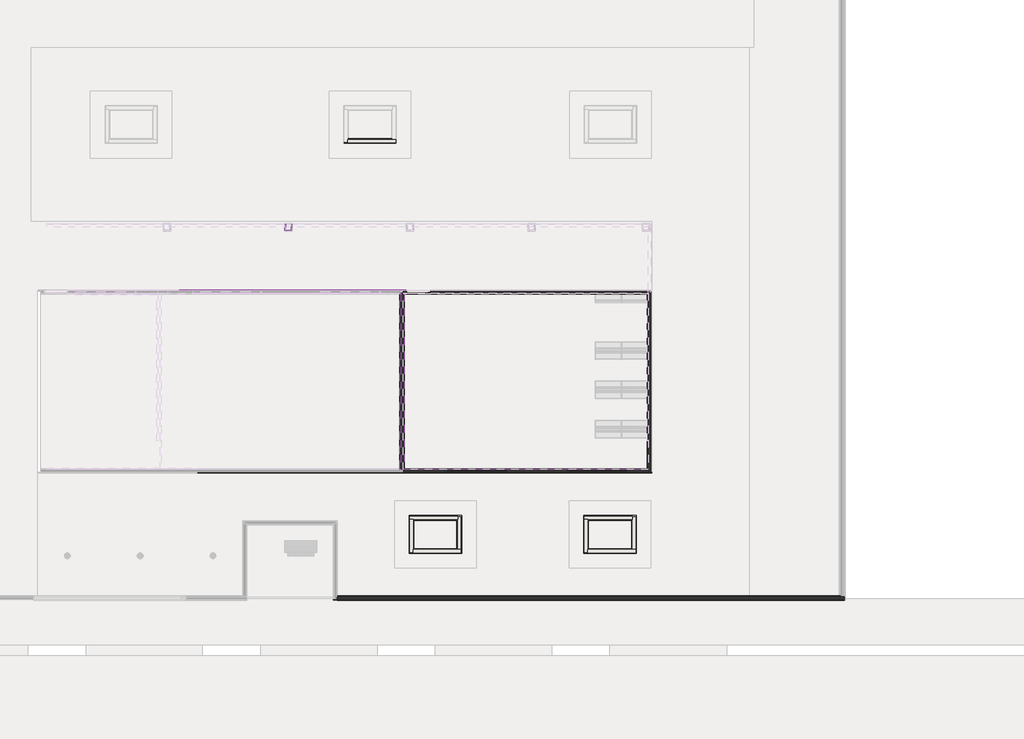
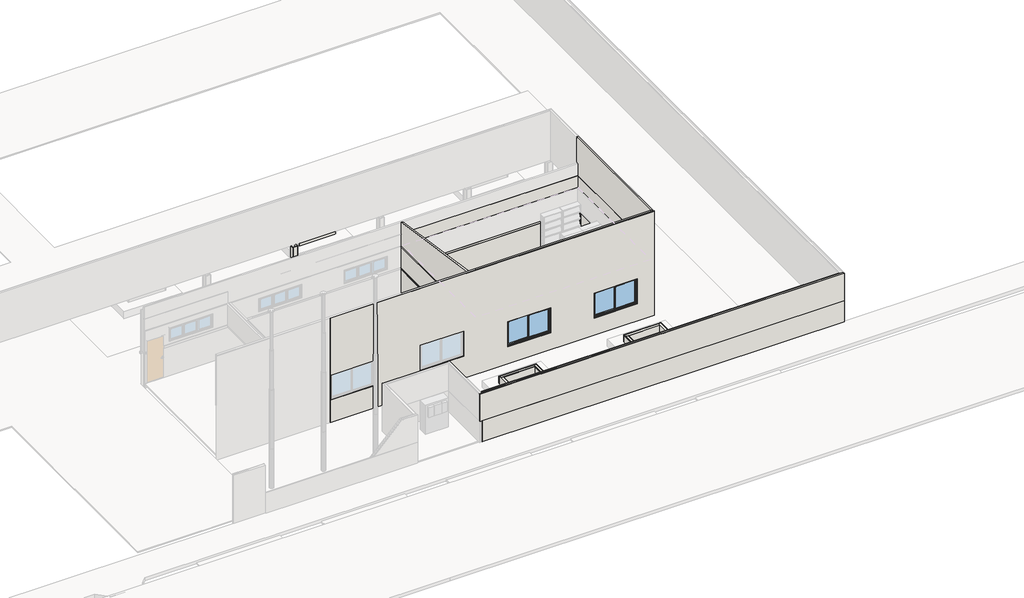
# One storey, part 13 of 28: 54 walls, 2 doors, 2 windows.
"""IFC4 building model written with IfcOpenShell, lengths in millimetres."""

from ifc_helpers import new_model, si_unit, frame, origin, origin_with_axes, place, context, project, spatial, polyline, outline, extrude, faceted_brep, transform, mapped, element, save
from components import door_29174598, pf15_l82cm_5bfc7586, window_2x1_20x1x10_9e9748dd

model = new_model("IFC4")

# Units and contexts
model_context = context("Model", 3, world=origin())
ifc_project = project(units=[si_unit("LENGTHUNIT", "METRE", prefix="MILLI")], contexts=[model_context])

# Site, building, storey
site = spatial("IfcSite", under=ifc_project)
building = spatial("IfcBuilding", under=site)
storey = spatial("IfcBuildingStorey", under=building, Name="Térreo", Elevation=0.0)

# Doors
placement = place(None, origin())
door_shape = door_29174598(model_context)
element("IfcDoor", 1, ObjectType="FDE_SO_Soleiras1 : SO14_SoleiraRampadaDesnívelAté2cm_L=14cm_Cimentado 2", at=placement, inside=storey, context=model_context, shape_type="MappedRepresentation", body=[
    mapped(door_shape, transform((-14663.0, 10630.0, 200.0), x_axis=(-1.0, 0.0, 0.0), y_axis=(0.0, -1.0, 0.0), z_axis=(0.0, 0.0, 1.0))),
])
pf15_l82cm_shape = pf15_l82cm_5bfc7586(model_context)
element("IfcDoor", 2, ObjectType="FDE_PF15_PF16_PF17_PortaemChapadeFerro : PF15_L82cm", at=placement, inside=storey, context=model_context, shape_type="MappedRepresentation", body=[
    mapped(pf15_l82cm_shape, transform((-14663.0, 10625.0, 200.0), x_axis=(-1.0, 0.0, 0.0), y_axis=(0.0, -1.0, 0.0), z_axis=(0.0, 0.0, 1.0))),
])

# Walls
element("IfcWall", 3, ObjectType="FDE_S712_AlvenariadeTijoloCerâmico/Baiano_Alvenaria_9cm - Existente", at=placement, inside=storey, context=model_context, shape_type="Brep", body=[
    faceted_brep([(-15270.0, 10580.0, 4098.5), (-15270.0, 10580.0, 0.0), (-15270.0, 4520.0, 0.0), (-15270.0, 4520.0, 5007.5), (-15180.0, 10580.0, 0.0), (-15180.0, 10580.0, 4098.5), (-15180.0, 4520.0000015, 5007.4999998), (-15180.0, 4520.000001, 3500.0), (-15180.0, 4520.0, 0.0)], [[[0, 1, 2, 3]], [[4, 5, 6, 7, 8]], [[2, 1, 4, 8]], [[3, 2, 8, 7, 6]], [[0, 5, 4, 1]], [[0, 3, 6, 5]]]),
])
element("IfcWall", 4, ObjectType="FDE_S712_AlvenariadeTijoloCerâmico/Baiano_Alvenaria_9cm - Existente", at=placement, inside=storey, context=model_context, shape_type="Brep", body=[
    faceted_brep([(-6770.0, 10655.0, 0.0), (-6770.0, 10580.0, 0.0), (-6770.0, 4520.0, 0.0), (-6770.0, 4430.0, 0.0), (-6770.0, 4430.0, 3500.0), (-6770.0, 4520.0, 3500.0), (-6770.0, 10580.0, 3500.0), (-6770.0, 10670.0, 3500.0), (-6770.0, 10670.0, 1731.0528047), (-6770.0, 10655.0, 1731.0528047), (-6680.0, 10655.0, 0.0), (-6680.0, 10655.0, 1731.0528047), (-6680.0, 10670.0, 1731.0528047), (-6680.0, 10670.0, 3500.0), (-6680.0, 4430.0, 3500.0), (-6680.0, 4430.0, 0.0)], [[[0, 1, 2, 3, 4, 5, 6, 7, 8, 9]], [[10, 11, 12, 13, 14, 15]], [[3, 2, 1, 0, 10, 15]], [[7, 6, 5, 4, 14, 13]], [[4, 3, 15, 14]], [[8, 12, 11, 9]], [[0, 9, 11, 10]], [[7, 13, 12, 8]]]),
])
element("IfcWall", 5, ObjectType="FDE_S712_AlvenariadeTijoloCerâmico/Baiano_Alvenaria_9cm - Existente", at=placement, inside=storey, context=model_context, shape_type="Brep", body=[
    faceted_brep([(-15180.0, 10580.0, 0.0), (-6770.0, 10580.0, 0.0), (-6770.0, 10580.0, 3500.0), (-15180.0, 10580.0, 3500.0), (-15080.0, 10580.0, 200.0), (-15080.0, 10580.0, 2312.0), (-14246.0, 10580.0, 2312.0), (-14246.0, 10580.0, 200.0), (-6770.0, 10670.0, 0.0), (-15180.0, 10670.0, 0.0), (-15180.0, 10670.0, 3500.0), (-6770.0, 10670.0, 3500.0), (-6770.0, 10670.0, 1731.0528047), (-15080.0, 10670.0, 2312.0), (-15080.0, 10670.0, 200.0), (-14246.0, 10670.0, 200.0), (-14246.0, 10670.0, 2312.0), (-6770.0, 10655.0, 0.0)], [[[0, 1, 2, 3], [4, 5, 6, 7]], [[8, 9, 10, 11, 12], [13, 14, 15, 16]], [[1, 0, 9, 8, 17]], [[3, 2, 11, 10]], [[4, 14, 13, 5]], [[5, 13, 16, 6]], [[6, 16, 15, 7]], [[14, 4, 7, 15]], [[9, 0, 3, 10]], [[1, 17, 8, 12, 11, 2]]]),
])
element("IfcWall", 6, ObjectType="FDE_S712_AlvenariadeTijoloCerâmico/Baiano_Alvenaria_9cm - Existente", at=placement, inside=storey, context=model_context, shape_type="SweptSolid", body=[
    extrude(outline(polyline([(0.0, -6770.0), (3500.0, -6770.0), (3500.0, -15180.0), (0.0, -15180.0), (0.0, -6770.0)]), holes=[polyline([(965.0, -7485.0), (965.0, -9555.0), (2235.0, -9555.0), (2235.0, -7485.0), (965.0, -7485.0)]), polyline([(965.0, -11645.0), (965.0, -13715.0), (2235.0, -13715.0), (2235.0, -11645.0), (965.0, -11645.0)])]), frame((0.0, 4430.0, 0.0), z_axis=(0.0, 1.0, 0.0), x_axis=(0.0, 0.0, 1.0)), (0.0, 0.0, 1.0), 90.0),
])
element("IfcWall", 7, ObjectType="FDE_S712_AlvenariadeTijoloCerâmico/Baiano_Alvenaria_9cm - Existente", at=placement, inside=storey, context=model_context, shape_type="Brep", body=[
    faceted_brep([(-30.0, 152.3387091, 0.0), (-90.0, 152.3387091, 0.0), (-180.0, 152.3387091, 0.0), (-17467.1088381, 152.3387091, 0.0), (-17467.1088381, 152.3387091, 2545.9092161), (-180.0, 152.3387091, 2545.9092161), (-90.0, 152.3387091, 2545.9092161), (-30.0, 152.3387091, 2545.9092161), (-30.0, 62.3387091, 0.0), (-30.0, 62.3387091, 2545.9092161), (-17467.1088381, 62.3387091, 2545.9092161), (-17467.1088381, 62.3387091, 0.0)], [[[0, 1, 2, 3, 4, 5, 6, 7]], [[8, 9, 10, 11]], [[3, 2, 1, 0, 8, 11]], [[7, 6, 5, 4, 10, 9]], [[0, 7, 9, 8]], [[4, 3, 11, 10]]]),
])
element("IfcWall", 8, ObjectType="FDE_S712_AlvenariadeTijoloCerâmico/Baiano_Alvenaria_9cm - Existente", at=placement, inside=storey, context=model_context, shape_type="Brep", body=[
    faceted_brep([(-6770.0, 10580.0, 4136.0), (-6770.0, 10580.0, 2900.0), (-6770.0, 10580.0, 1824.9435125), (-6770.0, 10580.0, 1731.0528047), (-6770.0, 10580.0, 0.0), (-6770.0, 10550.0, 0.0), (-6770.0, 4520.0, 0.0), (-6770.0, 4520.0, 3500.0), (-6770.0, 4520.0000015, 5400.0), (-6770.0, 10680.5, 5400.0), (-6770.0, 10680.5, 4136.0), (-6680.0, 10580.0, 0.0), (-6680.0, 10580.0, 4136.0), (-6680.0, 10680.5, 4136.0), (-6680.0, 10680.5, 5400.0), (-6680.0, 4520.0000015, 5400.0), (-6680.0, 4520.0000015, 3500.0), (-6680.0, 4520.0, 0.0)], [[[0, 1, 2, 3, 4, 5, 6, 7, 8, 9, 10]], [[11, 12, 13, 14, 15, 16, 17]], [[7, 6, 17, 16]], [[8, 7, 16, 15]], [[6, 5, 4, 11, 17]], [[9, 8, 15, 14]], [[10, 9, 14, 13]], [[10, 13, 12, 0]], [[0, 12, 11, 4, 3, 2, 1]]]),
])
element("IfcWall", 9, ObjectType="FDE_S712_AlvenariadeTijoloCerâmico/Baiano_Alvenaria_9cm - Existente", at=placement, inside=storey, context=model_context, shape_type="Brep", body=[
    faceted_brep([(-6770.0, 4520.0000015, 0.0), (-6800.0, 4520.0000015, 0.0), (-15150.0, 4520.0000015, 0.0), (-15180.0, 4520.0000015, 0.0), (-15180.0, 4520.0000015, 220.0), (-15180.0, 4520.0000015, 1731.0528047), (-15180.0, 4520.0000015, 1824.9435125), (-15180.0, 4520.0000015, 2900.0), (-15180.0, 4520.0000015, 5045.0), (-15225.0, 4520.0000015, 5045.0), (-15225.0, 4520.0000015, 5400.0), (-6770.0, 4520.0000015, 5400.0), (-6680.0, 4520.0000015, 5400.0), (-6680.0, 4520.0000015, 3500.0), (-6770.0, 4520.0000015, 3500.0), (-6770.0, 4520.0000015, 2900.0), (-15149.0, 4520.0000015, 2900.0), (-15149.0, 4520.0000015, 1824.9435125), (-13715.0, 4520.0000015, 1824.9435125), (-13715.0, 4520.0000015, 1731.0528047), (-13715.0, 4520.0000015, 965.0), (-11645.0, 4520.0000015, 965.0), (-11645.0, 4520.0000015, 1731.0528047), (-11645.0, 4520.0000015, 1824.9435125), (-9555.0, 4520.0000015, 1824.9435125), (-9555.0, 4520.0000015, 1731.0528047), (-9555.0, 4520.0000015, 965.0), (-7485.0, 4520.0000015, 965.0), (-7485.0, 4520.0000015, 1731.0528047), (-7485.0, 4520.0000015, 1824.9435125), (-6955.0, 4520.0000015, 1824.9435125), (-6770.0, 4520.0000015, 1824.9435125), (-6770.0, 4520.0000015, 1731.0528047), (-6770.0, 4520.0000015, 220.0), (-15180.0, 4430.0000015, 0.0), (-6770.0, 4430.0000015, 0.0), (-6770.0, 4430.0000015, 3500.0), (-6680.0, 4430.0000015, 3500.0), (-6680.0, 4430.0000015, 5400.0), (-15225.0, 4430.0000015, 5400.0), (-15225.0, 4430.0000015, 5045.0), (-15180.0, 4430.0000015, 5045.0), (-7485.0, 4430.0000015, 2235.0), (-7485.0, 4430.0000015, 965.0), (-9555.0, 4430.0000015, 965.0), (-9555.0, 4430.0000015, 2235.0), (-11645.0, 4430.0000015, 2235.0), (-11645.0, 4430.0000015, 965.0), (-13715.0, 4430.0000015, 965.0), (-13715.0, 4430.0000015, 2235.0), (-7485.0, 4519.0000015, 2235.0), (-7485.0, 4519.0000015, 1824.9435125), (-9555.0, 4519.0000015, 2235.0), (-9555.0, 4519.0000015, 1824.9435125), (-11645.0, 4519.0000015, 2235.0), (-11645.0, 4519.0000015, 1824.9435125), (-13715.0, 4519.0000015, 2235.0), (-13715.0, 4519.0000015, 1824.9435125), (-6770.0, 4519.0000015, 1824.9435125), (-6770.0, 4519.0000015, 2900.0), (-15149.0, 4519.0000015, 2900.0), (-15149.0, 4519.0000015, 1824.9435125)], [[[0, 1, 2, 3, 4, 5, 6, 7, 8, 9, 10, 11, 12, 13, 14, 15, 16, 17, 18, 19, 20, 21, 22, 23, 24, 25, 26, 27, 28, 29, 30, 31, 32, 33]], [[34, 35, 36, 37, 38, 39, 40, 41], [42, 43, 44, 45], [46, 47, 48, 49]], [[43, 42, 50, 51, 29, 28, 27]], [[42, 45, 52, 50]], [[45, 44, 26, 25, 24, 53, 52]], [[27, 26, 44, 43]], [[47, 46, 54, 55, 23, 22, 21]], [[46, 49, 56, 54]], [[49, 48, 20, 19, 18, 57, 56]], [[21, 20, 48, 47]], [[8, 7, 6, 5, 4, 3, 34, 41]], [[36, 35, 0, 33, 32, 31, 58, 59, 15, 14]], [[13, 12, 38, 37]], [[60, 59, 58, 51, 50, 52, 53, 55, 54, 56, 57, 61]], [[61, 57, 18, 17]], [[55, 53, 24, 23]], [[51, 58, 31, 30, 29]], [[59, 60, 16, 15]], [[60, 61, 17, 16]], [[3, 2, 1, 0, 35, 34]], [[12, 11, 10, 39, 38]], [[40, 39, 10, 9]], [[40, 9, 8, 41]], [[37, 36, 14, 13]]]),
])
element("IfcWall", 10, ObjectType="Pintura Externa - Tinta Acrílica Verbrás  Verde Água", at=placement, inside=storey, context=model_context, shape_type="Brep", body=[
    faceted_brep([(-22251.4878545, 4400.0000005, 0.0), (-6650.0, 4400.0000005, 0.0), (-6650.0, 4400.0000005, 5400.0), (-22251.4878545, 4400.0000005, 5400.0), (-7485.0, 4400.0000005, 965.0), (-9555.0, 4400.0000005, 965.0), (-9555.0, 4400.0000005, 2235.0), (-7485.0, 4400.0000005, 2235.0), (-11645.0, 4400.0000005, 965.0), (-13715.0, 4400.0000005, 965.0), (-13715.0, 4400.0000005, 2235.0), (-11645.0, 4400.0000005, 2235.0), (-15835.0, 4400.0000005, 1235.0), (-17905.0, 4400.0000005, 1235.0), (-17905.0, 4400.0000005, 2505.0), (-15835.0, 4400.0000005, 2505.0), (-20135.0, 4400.0000005, 1235.0), (-22205.0, 4400.0000005, 1235.0), (-22205.0, 4400.0000005, 2505.0), (-20135.0, 4400.0000005, 2505.0), (-22251.4878545, 4430.0000005, 0.0), (-22251.4878545, 4430.0000005, 100.0), (-22251.4878545, 4430.0000005, 5400.0), (-15225.0, 4430.0000005, 5400.0), (-6680.0, 4430.0000005, 5400.0), (-6650.0, 4430.0000005, 5400.0), (-6650.0, 4430.0000005, 0.0), (-6680.0, 4430.0000005, 0.0), (-6770.0, 4430.0000005, 0.0), (-15180.0, 4430.0000005, 0.0), (-15270.0, 4430.0000005, 0.0), (-7485.0, 4430.0000005, 965.0), (-7485.0, 4430.0000005, 2235.0), (-9555.0, 4430.0000005, 2235.0), (-9555.0, 4430.0000005, 965.0), (-11645.0, 4430.0000005, 965.0), (-11645.0, 4430.0000005, 2235.0), (-13715.0, 4430.0000005, 2235.0), (-13715.0, 4430.0000005, 965.0), (-15835.0, 4430.0000005, 1235.0), (-15835.0, 4430.0000005, 2505.0), (-17905.0, 4430.0000005, 2505.0), (-17905.0, 4430.0000005, 1235.0), (-20135.0, 4430.0000005, 1235.0), (-20135.0, 4430.0000005, 2505.0), (-22205.0, 4430.0000005, 2505.0), (-22205.0, 4430.0000005, 1235.0)], [[[0, 1, 2, 3], [4, 5, 6, 7], [8, 9, 10, 11], [12, 13, 14, 15], [16, 17, 18, 19]], [[20, 21, 22, 23, 24, 25, 26, 27, 28, 29, 30], [31, 32, 33, 34], [35, 36, 37, 38], [39, 40, 41, 42], [43, 44, 45, 46]], [[1, 0, 20, 30, 29, 28, 27, 26]], [[3, 2, 25, 24, 23, 22]], [[0, 3, 22, 21, 20]], [[32, 31, 4, 7]], [[33, 32, 7, 6]], [[34, 33, 6, 5]], [[31, 34, 5, 4]], [[36, 35, 8, 11]], [[37, 36, 11, 10]], [[38, 37, 10, 9]], [[35, 38, 9, 8]], [[2, 1, 26, 25]], [[40, 39, 12, 15]], [[41, 40, 15, 14]], [[42, 41, 14, 13]], [[39, 42, 13, 12]], [[44, 43, 16, 19]], [[45, 44, 19, 18]], [[46, 45, 18, 17]], [[43, 46, 17, 16]]]),
])
element("IfcWall", 11, ObjectType="Revestimento Cerâmico 10x10cm", at=placement, inside=storey, context=model_context, shape_type="Brep", body=[
    faceted_brep([(-15180.0, 10580.0, 220.0), (-15180.0, 4520.0, 220.0), (-15180.0, 4520.0, 1731.0528047), (-15180.0, 10580.0, 1731.0528047), (-15150.0, 10580.0, 220.0), (-15150.0, 10580.0, 1730.0), (-15150.0, 10580.0, 1731.0528047), (-15150.0, 4550.0000015, 1731.0528047), (-15150.0, 4520.0, 1731.0528047), (-15150.0, 4520.0, 220.0)], [[[0, 1, 2, 3]], [[4, 5, 6, 7, 8, 9]], [[1, 0, 4, 9]], [[3, 2, 8, 7, 6]], [[0, 3, 6, 5, 4]], [[2, 1, 9, 8]]]),
])
element("IfcWall", 12, ObjectType="Faixa - Revestimento Cerâmico Verde Folha 10x10cm", at=placement, inside=storey, context=model_context, shape_type="Brep", body=[
    faceted_brep([(-15180.0, 10580.0, 1731.0528047), (-15180.0, 4520.0, 1731.0528047), (-15180.0, 4520.0, 1824.9435125), (-15180.0, 10580.0, 1824.9435125), (-15150.0, 10580.0, 1731.0528047), (-15150.0, 10580.0, 1824.9435125), (-15150.0, 4550.0000015, 1824.9435125), (-15150.0, 4520.0, 1824.9435125), (-15150.0, 4520.0, 1731.0528047), (-15150.0, 4550.0000015, 1731.0528047)], [[[0, 1, 2, 3]], [[4, 5, 6, 7, 8, 9]], [[1, 0, 4, 9, 8]], [[3, 2, 7, 6, 5]], [[0, 3, 5, 4]], [[2, 1, 8, 7]]]),
])
element("IfcWall", 13, ObjectType="Pardes Internas_Pintura Acrílica Branco Neve 2", at=placement, inside=storey, context=model_context, shape_type="Brep", body=[
    faceted_brep([(-15149.0, 4520.0, 1824.9435125), (-15149.0, 4550.0000015, 1824.9435125), (-15149.0, 10549.0, 1824.9435125), (-15149.0, 10580.0, 1824.9435125), (-15149.0, 10580.0, 2900.0), (-15149.0, 10549.0, 2900.0), (-15149.0, 4550.0000015, 2900.0), (-15149.0, 4520.0, 2900.0), (-15180.0, 4520.0, 1824.9435125), (-15180.0, 4520.0, 2900.0), (-15180.0, 10580.0, 2900.0), (-15180.0, 10580.0, 1824.9435125)], [[[0, 1, 2, 3, 4, 5, 6, 7]], [[8, 9, 10, 11]], [[3, 2, 1, 0, 8, 11]], [[7, 6, 5, 4, 10, 9]], [[4, 3, 11, 10]], [[0, 7, 9, 8]]]),
])
element("IfcWall", 14, ObjectType="Revestimento Cerâmico 10x10cm", at=placement, inside=storey, context=model_context, shape_type="Brep", body=[
    faceted_brep([(-15150.0, 10550.0, 0.0), (-6770.0, 10550.0, 0.0), (-6770.0, 10550.0, 220.0), (-6770.0, 10550.0, 1731.0528047), (-6800.0, 10550.0, 1731.0528047), (-14246.0, 10550.0, 1731.0528047), (-14246.0, 10550.0, 220.0), (-14246.0, 10550.0, 200.0), (-14246.0, 10550.0, 180.0), (-15086.0, 10550.0, 180.0), (-15086.0, 10550.0, 1730.0), (-15150.0, 10550.0, 1730.0), (-6770.0, 10580.0, 0.0), (-15150.0, 10580.0, 0.0), (-15150.0, 10580.0, 220.0), (-15150.0, 10580.0, 1730.0), (-15086.0, 10580.0, 1730.0), (-15086.0, 10580.0, 180.0), (-14246.0, 10580.0, 180.0), (-14246.0, 10580.0, 200.0), (-14246.0, 10580.0, 220.0), (-14246.0, 10580.0, 1731.0528047), (-6770.0, 10580.0, 1731.0528047)], [[[0, 1, 2, 3, 4, 5, 6, 7, 8, 9, 10, 11]], [[12, 13, 14, 15, 16, 17, 18, 19, 20, 21, 22]], [[3, 2, 1, 12, 22]], [[0, 11, 15, 14, 13]], [[1, 0, 13, 12]], [[5, 4, 3, 22, 21]], [[6, 5, 21, 20]], [[6, 20, 19, 18, 8, 7]], [[9, 8, 18, 17]], [[10, 9, 17, 16]], [[11, 10, 16, 15]]]),
])
element("IfcWall", 15, ObjectType="Faixa - Revestimento Cerâmico Verde Folha 10x10cm", at=placement, inside=storey, context=model_context, shape_type="SweptSolid", body=[
    extrude(outline(polyline([(-6770.0, 10580.0), (-6770.0, 10550.0), (-14246.0, 10550.0), (-14246.0, 10580.0), (-6770.0, 10580.0)])), frame((0.0, 0.0, 1731.0528047), z_axis=(0.0, 0.0, 1.0), x_axis=(1.0, 0.0, 0.0)), (0.0, 0.0, 1.0), 93.8907079),
    extrude(outline(polyline([(-15180.0, 10550.0), (-15180.0, 10580.0), (-15080.0, 10580.0), (-15080.0, 10550.0), (-15180.0, 10550.0)])), frame((0.0, 0.0, 1731.0528047), z_axis=(0.0, 0.0, 1.0), x_axis=(1.0, 0.0, 0.0)), (0.0, 0.0, 1.0), 93.8907079),
])
element("IfcWall", 16, ObjectType="Revestimento Cerâmico 10x10cm", at=placement, inside=storey, context=model_context, shape_type="Brep", body=[
    faceted_brep([(-6800.0, 10550.0, 220.0), (-6800.0, 4520.0, 220.0), (-6800.0, 4520.0, 1731.0528047), (-6800.0, 4550.0000015, 1731.0528047), (-6800.0, 10550.0, 1731.0528047), (-6770.0, 10550.0, 220.0), (-6770.0, 10550.0, 1731.0528047), (-6770.0, 4520.0, 1731.0528047), (-6770.0, 4520.0, 220.0)], [[[0, 1, 2, 3, 4]], [[5, 6, 7, 8]], [[1, 0, 5, 8]], [[4, 3, 2, 7, 6]], [[2, 1, 8, 7]], [[0, 4, 6, 5]]]),
])
element("IfcWall", 17, ObjectType="Revestimento Cerâmico 10x10cm", at=placement, inside=storey, context=model_context, shape_type="Brep", body=[
    faceted_brep([(-6800.0, 4550.0000015, 0.0), (-15150.0, 4550.0000015, 0.0), (-15150.0, 4550.0000015, 1731.0528047), (-13715.0, 4550.0000015, 1731.0528047), (-13715.0, 4550.0000015, 965.0), (-11645.0, 4550.0000015, 965.0), (-11645.0, 4550.0000015, 1731.0528047), (-9555.0, 4550.0000015, 1731.0528047), (-9555.0, 4550.0000015, 965.0), (-7485.0, 4550.0000015, 965.0), (-7485.0, 4550.0000015, 1731.0528047), (-6800.0, 4550.0000015, 1731.0528047), (-15150.0, 4520.0000015, 0.0), (-6800.0, 4520.0000015, 0.0), (-6800.0, 4520.0000015, 220.0), (-6800.0, 4520.0000015, 1731.0528047), (-7485.0, 4520.0000015, 1731.0528047), (-7485.0, 4520.0000015, 965.0), (-9555.0, 4520.0000015, 965.0), (-9555.0, 4520.0000015, 1731.0528047), (-11645.0, 4520.0000015, 1731.0528047), (-11645.0, 4520.0000015, 965.0), (-13715.0, 4520.0000015, 965.0), (-13715.0, 4520.0000015, 1731.0528047), (-15150.0, 4520.0000015, 1731.0528047), (-15150.0, 4520.0000015, 220.0)], [[[0, 1, 2, 3, 4, 5, 6, 7, 8, 9, 10, 11]], [[12, 13, 14, 15, 16, 17, 18, 19, 20, 21, 22, 23, 24, 25]], [[1, 0, 13, 12]], [[2, 24, 23, 3]], [[11, 10, 16, 15]], [[19, 7, 6, 20]], [[10, 9, 17, 16]], [[8, 7, 19, 18]], [[5, 21, 20, 6]], [[22, 4, 3, 23]], [[1, 12, 25, 24, 2]], [[17, 9, 8, 18]], [[21, 5, 4, 22]], [[0, 11, 15, 14, 13]]]),
])
element("IfcWall", 18, ObjectType="Faixa - Revestimento Cerâmico Verde Folha 10x10cm", at=placement, inside=storey, context=model_context, shape_type="Brep", body=[
    faceted_brep([(-6955.0, 4550.0000015, 1824.9435125), (-6955.0, 4550.0000015, 1731.0528047), (-7485.0, 4550.0000015, 1731.0528047), (-7485.0, 4550.0000015, 1824.9435125), (-6955.0, 4520.0000015, 1731.0528047), (-6955.0, 4520.0000015, 1824.9435125), (-7485.0, 4520.0000015, 1824.9435125), (-7485.0, 4520.0000015, 1731.0528047)], [[[0, 1, 2, 3]], [[4, 5, 6, 7]], [[1, 4, 7, 2]], [[5, 0, 3, 6]], [[1, 0, 5, 4]], [[3, 2, 7, 6]]]),
    faceted_brep([(-15150.0, 4550.0000015, 1731.0528047), (-15150.0, 4550.0000015, 1824.9435125), (-13715.0, 4550.0000015, 1824.9435125), (-13715.0, 4550.0000015, 1731.0528047), (-15150.0, 4520.0000015, 1824.9435125), (-15150.0, 4520.0000015, 1731.0528047), (-13715.0, 4520.0000015, 1731.0528047), (-13715.0, 4520.0000015, 1824.9435125), (-15149.0, 4520.0000015, 1824.9435125)], [[[0, 1, 2, 3]], [[4, 5, 6, 7, 8]], [[5, 0, 3, 6]], [[1, 4, 8, 7, 2]], [[1, 0, 5, 4]], [[3, 2, 7, 6]]]),
    faceted_brep([(-11645.0, 4550.0000015, 1731.0528047), (-11645.0, 4550.0000015, 1824.9435125), (-9555.0, 4550.0000015, 1824.9435125), (-9555.0, 4550.0000015, 1731.0528047), (-11645.0, 4520.0000015, 1824.9435125), (-11645.0, 4520.0000015, 1731.0528047), (-9555.0, 4520.0000015, 1731.0528047), (-9555.0, 4520.0000015, 1824.9435125)], [[[0, 1, 2, 3]], [[4, 5, 6, 7]], [[5, 0, 3, 6]], [[1, 4, 7, 2]], [[1, 0, 5, 4]], [[3, 2, 7, 6]]]),
])
element("IfcWall", 19, ObjectType="Pardes Internas_Pintura Acrílica Branco Neve 2", at=placement, inside=storey, context=model_context, shape_type="Brep", body=[
    faceted_brep([(-6770.0, 4519.0000015, 2900.0), (-15149.0, 4519.0000015, 2900.0), (-15149.0, 4519.0000015, 1824.9435125), (-13715.0, 4519.0000015, 1824.9435125), (-13715.0, 4519.0000015, 2235.0), (-11645.0, 4519.0000015, 2235.0), (-11645.0, 4519.0000015, 1824.9435125), (-9555.0, 4519.0000015, 1824.9435125), (-9555.0, 4519.0000015, 2235.0), (-7485.0, 4519.0000015, 2235.0), (-7485.0, 4519.0000015, 1824.9435125), (-6770.0, 4519.0000015, 1824.9435125), (-15149.0, 4550.0000015, 2900.0), (-6770.0, 4550.0000015, 2900.0), (-6770.0, 4550.0000015, 1824.9435125), (-7485.0, 4550.0000015, 1824.9435125), (-7485.0, 4550.0000015, 2235.0), (-9555.0, 4550.0000015, 2235.0), (-9555.0, 4550.0000015, 1824.9435125), (-11645.0, 4550.0000015, 1824.9435125), (-11645.0, 4550.0000015, 2235.0), (-13715.0, 4550.0000015, 2235.0), (-13715.0, 4550.0000015, 1824.9435125), (-15149.0, 4550.0000015, 1824.9435125), (-7485.0, 4520.0000015, 1824.9435125), (-6770.0, 4520.0000015, 1824.9435125), (-9555.0, 4520.0000015, 1824.9435125), (-11645.0, 4520.0000015, 1824.9435125), (-15149.0, 4520.0, 1824.9435125), (-13715.0, 4520.0000015, 1824.9435125), (-6770.0, 4520.0000015, 2900.0), (-15149.0, 4520.0, 2900.0)], [[[0, 1, 2, 3, 4, 5, 6, 7, 8, 9, 10, 11]], [[12, 13, 14, 15, 16, 17, 18, 19, 20, 21, 22, 23]], [[11, 10, 24, 15, 14, 25]], [[18, 26, 7, 6, 27, 19]], [[2, 28, 23, 22, 29, 3]], [[1, 0, 30, 13, 12, 31]], [[9, 16, 15, 24, 10]], [[16, 9, 8, 17]], [[17, 8, 7, 26, 18]], [[5, 20, 19, 27, 6]], [[20, 5, 4, 21]], [[21, 4, 3, 29, 22]], [[23, 28, 2, 1, 31, 12]], [[0, 11, 25, 14, 13, 30]]]),
])
element("IfcWall", 20, ObjectType="Faixa - Revestimento Cerâmico Verde Folha 10x10cm", at=placement, inside=storey, context=model_context, shape_type="Brep", body=[
    faceted_brep([(-6665.0, 10715.0, 1824.9435125), (-6665.0, 10715.0, 1731.0528047), (-14246.0, 10715.0, 1731.0528047), (-14246.0, 10715.0, 1824.9435125), (-6665.0, 10685.0, 1731.0528047), (-6665.0, 10685.0, 1824.9435125), (-14246.0, 10685.0, 1824.9435125), (-14246.0, 10685.0, 1731.0528047), (-14246.0, 10691.0, 1824.9435125)], [[[0, 1, 2, 3]], [[4, 5, 6, 7]], [[1, 4, 7, 2]], [[5, 0, 3, 8, 6]], [[1, 0, 5, 4]], [[3, 2, 7, 6, 8]]]),
    faceted_brep([(-22865.0, 10715.0, 1731.0528047), (-22865.0, 10715.0, 1824.9435125), (-15080.0, 10715.0, 1824.9435125), (-15080.0, 10715.0, 1731.0528047), (-22865.0, 10685.0, 1824.9435125), (-22865.0, 10685.0, 1731.0528047), (-15080.0, 10685.0, 1731.0528047), (-15080.0, 10685.0, 1824.9435125), (-15080.0, 10691.0, 1824.9435125)], [[[0, 1, 2, 3]], [[4, 5, 6, 7]], [[5, 0, 3, 6]], [[1, 0, 5, 4]], [[1, 4, 7, 8, 2]], [[3, 2, 8, 7, 6]]]),
])
element("IfcWall", 21, ObjectType="Revestimento Cerâmico 10x10cm", at=placement, inside=storey, context=model_context, shape_type="Brep", body=[
    faceted_brep([(-15300.0, 10580.0, 220.0), (-15300.0, 4520.0, 220.0), (-15300.0, 4520.0, 1731.0528047), (-15300.0, 4550.0000005, 1731.0528047), (-15300.0, 10550.0, 1731.0528047), (-15300.0, 10580.0, 1731.0528047), (-15270.0, 10580.0, 220.0), (-15270.0, 10580.0, 1731.0528047), (-15270.0, 10550.0, 1731.0528047), (-15270.0, 4520.0, 1731.0528047), (-15270.0, 4520.0, 220.0)], [[[0, 1, 2, 3, 4, 5]], [[6, 7, 8, 9, 10]], [[1, 0, 6, 10]], [[5, 4, 3, 2, 9, 8, 7]], [[0, 5, 7, 6]], [[2, 1, 10, 9]]]),
])
element("IfcWall", 22, ObjectType="Faixa - Revestimento Cerâmico Verde Folha 10x10cm", at=placement, inside=storey, context=model_context, shape_type="Brep", body=[
    faceted_brep([(-15300.0, 10580.0, 1731.0528047), (-15300.0, 4580.0000005, 1731.0528047), (-15300.0, 4550.0000005, 1731.0528047), (-15300.0, 4520.0, 1731.0528047), (-15300.0, 4520.0, 1824.9435125), (-15300.0, 4550.0000005, 1824.9435125), (-15300.0, 4580.0000005, 1824.9435125), (-15300.0, 10580.0, 1824.9435125), (-15270.0, 10580.0, 1731.0528047), (-15270.0, 10580.0, 1824.9435125), (-15270.0, 10549.0, 1824.9435125), (-15270.0, 4520.0, 1824.9435125), (-15270.0, 4520.0, 1731.0528047)], [[[0, 1, 2, 3, 4, 5, 6, 7]], [[8, 9, 10, 11, 12]], [[3, 2, 1, 0, 8, 12]], [[7, 6, 5, 4, 11, 10, 9]], [[0, 7, 9, 8]], [[4, 3, 12, 11]]]),
])
element("IfcWall", 23, ObjectType="Pardes Internas_Pintura Acrílica Branco Neve 2", at=placement, inside=storey, context=model_context, shape_type="Brep", body=[
    faceted_brep([(-15270.0, 4520.0, 1824.9435125), (-15270.0, 10550.0, 1824.9435125), (-15270.0, 10580.0, 1824.9435125), (-15270.0, 10580.0, 2900.0), (-15270.0, 4520.0, 2900.0), (-15301.0, 4520.0, 1824.9435125), (-15301.0, 4520.0, 2900.0), (-15301.0, 4550.0000005, 2900.0), (-15301.0, 10580.0, 2900.0), (-15301.0, 10580.0, 1824.9435125), (-15301.0, 4550.0000005, 1824.9435125), (-15300.0, 10580.0, 1824.9435125)], [[[0, 1, 2, 3, 4]], [[5, 6, 7, 8, 9, 10]], [[2, 1, 0, 5, 10, 9, 11]], [[4, 3, 8, 7, 6]], [[3, 2, 11, 9, 8]], [[0, 4, 6, 5]]]),
])
element("IfcWall", 24, ObjectType="Pardes Externas_Pintura Acrílica Branco Neve", at=placement, inside=storey, context=model_context, shape_type="Brep", body=[
    faceted_brep([(-30.0, 62.3387091, 1156.7860555), (-16096.3660591, 62.3387091, 1156.7860555), (-17467.1088381, 62.3387091, 1156.7860555), (-17557.1088381, 62.3387091, 1156.7860555), (-17578.1088381, 62.3387091, 1156.7860555), (-17578.1088381, 62.3387091, 2545.9092161), (-17578.1088381, 62.3387091, 2551.1739106), (-30.0, 62.3387091, 2551.1739106), (-30.0, 41.3387091, 1156.7860555), (-30.0, 41.3387091, 2551.1739106), (-17578.1088381, 41.3387091, 2551.1739106), (-17578.1088381, 41.3387091, 1156.7860555), (-16096.3660591, 41.3387091, 1156.7860555)], [[[0, 1, 2, 3, 4, 5, 6, 7]], [[8, 9, 10, 11, 12]], [[1, 0, 8, 12]], [[4, 3, 2, 1, 12, 11]], [[7, 6, 10, 9]], [[0, 7, 9, 8]], [[6, 5, 4, 11, 10]]]),
])
element("IfcWall", 25, ObjectType="Pardes Externas_Pintura Acrílica Branco Neve", at=placement, inside=storey, context=model_context, shape_type="SweptSolid", body=[
    extrude(outline(polyline([(-19025.0, 12729.0), (-19225.0, 12729.0), (-19225.0, 12750.0), (-19025.0, 12750.0), (-19025.0, 12729.0)])), frame((0.0, 0.0, 1794.0), z_axis=(0.0, 0.0, 1.0), x_axis=(1.0, 0.0, 0.0)), (0.0, 0.0, 1.0), 1106.0),
])
element("IfcWall", 26, ObjectType="Pardes Externas_Pintura Acrílica Branco Neve", at=placement, inside=storey, context=model_context, shape_type="Brep", body=[
    faceted_brep([(-19025.0, 12950.0, 1794.0), (-19025.0, 12750.0, 1794.0), (-19025.0, 12729.0, 1794.0), (-19025.0, 12729.0, 2900.0), (-19025.0, 12750.0, 2900.0), (-19025.0, 12950.0, 2900.0), (-19004.0, 12950.0, 1794.0), (-19004.0, 12950.0, 2900.0), (-19004.0, 12729.0, 2900.0), (-19004.0, 12729.0, 1794.0)], [[[0, 1, 2, 3, 4, 5]], [[6, 7, 8, 9]], [[2, 1, 0, 6, 9]], [[5, 4, 3, 8, 7]], [[3, 2, 9, 8]], [[0, 5, 7, 6]]]),
])
element("IfcWall", 27, ObjectType="Pardes Externas_Pintura Acrílica Branco Neve", at=placement, inside=storey, context=model_context, shape_type="Brep", body=[
    faceted_brep([(-19246.0, 12950.0, 1794.0), (-19246.0, 12729.0, 1794.0), (-19246.0, 12729.0, 2900.0), (-19246.0, 12950.0, 2900.0), (-19225.0, 12950.0, 1794.0), (-19225.0, 12950.0, 2900.0), (-19225.0, 12750.0, 2900.0), (-19225.0, 12729.0, 2900.0), (-19225.0, 12729.0, 1794.0), (-19225.0, 12750.0, 1794.0)], [[[0, 1, 2, 3]], [[4, 5, 6, 7, 8, 9]], [[1, 0, 4, 9, 8]], [[3, 2, 7, 6, 5]], [[2, 1, 8, 7]], [[0, 3, 5, 4]]]),
])
element("IfcWall", 28, ObjectType="FDE_S713_AlvenariadeTijoloLaminadoaVista_Alvenaria_1/2TijoloAlternado_11,5cm", at=placement, inside=storey, context=model_context, shape_type="Brep", body=[
    faceted_brep([(-17085.3203436, 15752.1451949, 0.0), (-15442.3203436, 15752.1451949, 0.0), (-15442.3203436, 15752.1451949, 800.0), (-17085.3203436, 15752.1451949, 800.0), (-17085.3203436, 15752.1451949, 100.0), (-17085.3203436, 15867.1451949, 0.0), (-17085.3203436, 15867.1451949, 800.0), (-15557.3203436, 15867.1451949, 800.0), (-15442.3203436, 15867.1451949, 800.0), (-15442.3203436, 15867.1451949, 100.0), (-15442.3203436, 15867.1451949, 0.0)], [[[0, 1, 2, 3, 4]], [[5, 6, 7, 8, 9, 10]], [[1, 0, 5, 10]], [[3, 2, 8, 7, 6]], [[2, 1, 10, 9, 8]], [[0, 4, 3, 6, 5]]]),
])
element("IfcWall", 29, ObjectType="Pardes Externas_Pintura Acrílica Branco Neve", at=placement, inside=storey, context=model_context, shape_type="SweptSolid", body=[
    extrude(outline(polyline([(-17200.3203436, 15752.1451949), (-15442.3203436, 15752.1451949), (-15442.3203436, 15731.1451949), (-17200.3203436, 15731.1451949), (-17200.3203436, 15752.1451949)])), frame((0.0, 0.0, 100.0), z_axis=(0.0, 0.0, 1.0), x_axis=(1.0, 0.0, 0.0)), (0.0, 0.0, 1.0), 700.0),
])
element("IfcWall", 30, ObjectType="Pardes Externas_Pintura Acrílica Branco Neve", at=placement, inside=storey, context=model_context, shape_type="SweptSolid", body=[
    extrude(outline(polyline([(-15578.3203436, 15867.1451949), (-17064.3203436, 15867.1451949), (-17064.3203436, 15888.1451949), (-15578.3203436, 15888.1451949), (-15578.3203436, 15867.1451949)])), origin_with_axes(), (0.0, 0.0, 1.0), 800.0),
])
element("IfcWall", 31, ObjectType="FDE_S713_AlvenariadeTijoloLaminadoaVista_Alvenaria_1/2TijoloAlternado_11,5cm", at=placement, inside=storey, context=model_context, shape_type="Brep", body=[
    faceted_brep([(-8959.0, 2801.7308554, 100.0), (-8959.0, 1658.7308554, 100.0), (-8959.0, 1658.7308554, 800.0), (-8959.0, 2801.7308554, 800.0), (-8959.0, 2801.7308554, 179.0468845), (-8844.0, 2801.7308554, 100.0), (-8844.0, 2801.7308554, 800.0), (-8844.0, 1773.7308554, 800.0), (-8844.0, 1658.7308554, 800.0), (-8844.0, 1658.7308554, 100.0)], [[[0, 1, 2, 3, 4]], [[5, 6, 7, 8, 9]], [[1, 0, 5, 9]], [[3, 2, 8, 7, 6]], [[2, 1, 9, 8]], [[0, 4, 3, 6, 5]]]),
])
element("IfcWall", 32, ObjectType="FDE_S713_AlvenariadeTijoloLaminadoaVista_Alvenaria_1/2TijoloAlternado_11,5cm", at=placement, inside=storey, context=model_context, shape_type="Brep", body=[
    faceted_brep([(-8844.0, 1658.7308554, 0.0), (-7201.0, 1658.7308554, 0.0), (-7201.0, 1658.7308554, 800.0), (-8844.0, 1658.7308554, 800.0), (-8844.0, 1658.7308554, 100.0), (-8844.0, 1773.7308554, 0.0), (-8844.0, 1773.7308554, 800.0), (-7316.0, 1773.7308554, 800.0), (-7201.0, 1773.7308554, 800.0), (-7201.0, 1773.7308554, 100.0), (-7201.0, 1773.7308554, 0.0)], [[[0, 1, 2, 3, 4]], [[5, 6, 7, 8, 9, 10]], [[1, 0, 5, 10]], [[3, 2, 8, 7, 6]], [[2, 1, 10, 9, 8]], [[0, 4, 3, 6, 5]]]),
])
element("IfcWall", 33, ObjectType="FDE_S713_AlvenariadeTijoloLaminadoaVista_Alvenaria_1/2TijoloAlternado_11,5cm", at=placement, inside=storey, context=model_context, shape_type="Brep", body=[
    faceted_brep([(-7201.0, 1773.7308554, 100.0), (-7201.0, 2916.7308554, 100.0), (-7201.0, 2916.7308554, 800.0), (-7201.0, 1773.7308554, 800.0), (-7316.0, 1773.7308554, 100.0), (-7316.0, 1773.7308554, 800.0), (-7316.0, 2801.7308554, 800.0), (-7316.0, 2916.7308554, 800.0), (-7316.0, 2916.7308554, 179.0468845), (-7316.0, 2916.7308554, 100.0)], [[[0, 1, 2, 3]], [[4, 5, 6, 7, 8, 9]], [[1, 0, 4, 9]], [[3, 2, 7, 6, 5]], [[2, 1, 9, 8, 7]], [[0, 3, 5, 4]]]),
])
element("IfcWall", 34, ObjectType="FDE_S713_AlvenariadeTijoloLaminadoaVista_Alvenaria_1/2TijoloAlternado_11,5cm", at=placement, inside=storey, context=model_context, shape_type="Brep", body=[
    faceted_brep([(-7316.0, 2916.7308554, 179.0468845), (-8959.0, 2916.7308554, 179.0468845), (-8959.0, 2916.7308554, 800.0), (-7316.0, 2916.7308554, 800.0), (-7316.0, 2801.7308554, 179.0468845), (-7316.0, 2801.7308554, 800.0), (-8844.0, 2801.7308554, 800.0), (-8959.0, 2801.7308554, 800.0), (-8959.0, 2801.7308554, 179.0468845)], [[[0, 1, 2, 3]], [[4, 5, 6, 7, 8]], [[1, 0, 4, 8]], [[3, 2, 7, 6, 5]], [[2, 1, 8, 7]], [[0, 3, 5, 4]]]),
])
element("IfcWall", 35, ObjectType="Pardes Externas_Pintura Acrílica Branco Neve", at=placement, inside=storey, context=model_context, shape_type="Brep", body=[
    faceted_brep([(-8980.0, 2916.7308554, 100.0), (-8959.0, 2916.7308554, 100.0), (-7201.0, 2916.7308554, 100.0), (-7180.0, 2916.7308554, 100.0), (-7180.0, 2916.7308554, 800.0), (-7201.0, 2916.7308554, 800.0), (-8959.0, 2916.7308554, 800.0), (-8980.0, 2916.7308554, 800.0), (-8980.0, 2937.7308554, 100.0), (-8980.0, 2937.7308554, 800.0), (-7180.0, 2937.7308554, 800.0), (-7180.0, 2937.7308554, 100.0)], [[[0, 1, 2, 3, 4, 5, 6, 7]], [[8, 9, 10, 11]], [[3, 2, 1, 0, 8, 11]], [[7, 6, 5, 4, 10, 9]], [[0, 7, 9, 8]], [[4, 3, 11, 10]]]),
])
element("IfcWall", 36, ObjectType="Pardes Externas_Pintura Acrílica Branco Neve", at=placement, inside=storey, context=model_context, shape_type="Brep", body=[
    faceted_brep([(-8959.0, 1637.7308554, 100.0), (-8959.0, 1658.7308554, 100.0), (-8959.0, 2916.7308554, 100.0), (-8959.0, 2916.7308554, 800.0), (-8959.0, 1658.7308554, 800.0), (-8959.0, 1637.7308554, 800.0), (-8980.0, 1637.7308554, 100.0), (-8980.0, 1637.7308554, 800.0), (-8980.0, 2916.7308554, 800.0), (-8980.0, 2916.7308554, 100.0)], [[[0, 1, 2, 3, 4, 5]], [[6, 7, 8, 9]], [[2, 1, 0, 6, 9]], [[5, 4, 3, 8, 7]], [[3, 2, 9, 8]], [[0, 5, 7, 6]]]),
])
element("IfcWall", 37, ObjectType="Pardes Externas_Pintura Acrílica Branco Neve", at=placement, inside=storey, context=model_context, shape_type="Brep", body=[
    faceted_brep([(-7201.0, 2916.7308554, 100.0), (-7201.0, 1658.7308554, 100.0), (-7201.0, 1637.7308554, 100.0), (-7201.0, 1637.7308554, 800.0), (-7201.0, 1658.7308554, 800.0), (-7201.0, 2916.7308554, 800.0), (-7180.0, 2916.7308554, 100.0), (-7180.0, 2916.7308554, 800.0), (-7180.0, 1637.7308554, 800.0), (-7180.0, 1637.7308554, 100.0)], [[[0, 1, 2, 3, 4, 5]], [[6, 7, 8, 9]], [[2, 1, 0, 6, 9]], [[5, 4, 3, 8, 7]], [[0, 5, 7, 6]], [[3, 2, 9, 8]]]),
])
element("IfcWall", 38, ObjectType="Pardes Externas_Pintura Acrílica Branco Neve", at=placement, inside=storey, context=model_context, shape_type="SweptSolid", body=[
    extrude(outline(polyline([(-8959.0, 1658.7308554), (-7201.0, 1658.7308554), (-7201.0, 1637.7308554), (-8959.0, 1637.7308554), (-8959.0, 1658.7308554)])), frame((0.0, 0.0, 100.0), z_axis=(0.0, 0.0, 1.0), x_axis=(1.0, 0.0, 0.0)), (0.0, 0.0, 1.0), 700.0),
])
element("IfcWall", 39, ObjectType="Pardes Externas_Pintura Acrílica Branco Neve", at=placement, inside=storey, context=model_context, shape_type="Brep", body=[
    faceted_brep([(-7316.0, 1773.7308554, 0.0), (-7316.0, 2801.7308554, 0.0), (-7316.0, 2801.7308554, 800.0), (-7316.0, 1773.7308554, 800.0), (-7337.0, 1773.7308554, 0.0), (-7337.0, 1773.7308554, 800.0), (-7337.0, 1794.7308554, 800.0), (-7337.0, 2780.7308554, 800.0), (-7337.0, 2801.7308554, 800.0), (-7337.0, 2801.7308554, 0.0), (-7337.0, 2780.7308554, 0.0), (-7337.0, 1794.7308554, 0.0)], [[[0, 1, 2, 3]], [[4, 5, 6, 7, 8, 9, 10, 11]], [[1, 0, 4, 11, 10, 9]], [[3, 2, 8, 7, 6, 5]], [[2, 1, 9, 8]], [[0, 3, 5, 4]]]),
])
element("IfcWall", 40, ObjectType="Pardes Externas_Pintura Acrílica Branco Neve", at=placement, inside=storey, context=model_context, shape_type="Brep", body=[
    faceted_brep([(-7337.0, 2801.7308554, 0.0), (-8844.0, 2801.7308554, 0.0), (-8844.0, 2801.7308554, 800.0), (-7337.0, 2801.7308554, 800.0), (-7337.0, 2780.7308554, 0.0), (-7337.0, 2780.7308554, 800.0), (-8823.0, 2780.7308554, 800.0), (-8844.0, 2780.7308554, 800.0), (-8844.0, 2780.7308554, 0.0), (-8823.0, 2780.7308554, 0.0)], [[[0, 1, 2, 3]], [[4, 5, 6, 7, 8, 9]], [[1, 0, 4, 9, 8]], [[3, 2, 7, 6, 5]], [[0, 3, 5, 4]], [[2, 1, 8, 7]]]),
])
element("IfcWall", 41, ObjectType="Pardes Externas_Pintura Acrílica Branco Neve", at=placement, inside=storey, context=model_context, shape_type="Brep", body=[
    faceted_brep([(-8844.0, 2780.7308554, 0.0), (-8844.0, 1773.7308554, 0.0), (-8844.0, 1773.7308554, 800.0), (-8844.0, 2780.7308554, 800.0), (-8823.0, 2780.7308554, 0.0), (-8823.0, 2780.7308554, 800.0), (-8823.0, 1794.7308554, 800.0), (-8823.0, 1773.7308554, 800.0), (-8823.0, 1773.7308554, 0.0), (-8823.0, 1794.7308554, 0.0)], [[[0, 1, 2, 3]], [[4, 5, 6, 7, 8, 9]], [[1, 0, 4, 9, 8]], [[3, 2, 7, 6, 5]], [[0, 3, 5, 4]], [[2, 1, 8, 7]]]),
])
element("IfcWall", 42, ObjectType="Pardes Externas_Pintura Acrílica Branco Neve", at=placement, inside=storey, context=model_context, shape_type="SweptSolid", body=[
    extrude(outline(polyline([(-7337.0, 1773.7308554), (-8823.0, 1773.7308554), (-8823.0, 1794.7308554), (-7337.0, 1794.7308554), (-7337.0, 1773.7308554)])), origin_with_axes(), (0.0, 0.0, 1.0), 800.0),
])
element("IfcWall", 43, ObjectType="Pardes Externas_Pintura Acrílica Branco Neve", at=placement, inside=storey, context=model_context, shape_type="SweptSolid", body=[
    extrude(outline(polyline([(-17467.1088381, 173.3387091), (-180.0, 173.3387091), (-180.0, 152.3387091), (-17467.1088381, 152.3387091), (-17467.1088381, 173.3387091)])), origin_with_axes(), (0.0, 0.0, 1.0), 2545.9092161),
])
element("IfcWall", 44, ObjectType="Faixa - Revestimento Cerâmico Verde Folha 10x10cm", at=placement, inside=storey, context=model_context, shape_type="Brep", body=[
    faceted_brep([(-17467.1088381, 32.3387091, 1156.7860555), (-17467.1088381, 32.3387091, 0.0), (-30.0, 32.3387091, 0.0), (-30.0, 32.3387091, 1156.7860555), (-17467.1088381, 62.3387091, 0.0), (-17467.1088381, 62.3387091, 1156.7860555), (-30.0, 62.3387091, 1156.7860555), (-30.0, 62.3387091, 0.0), (-30.0, 41.3387091, 1156.7860555)], [[[0, 1, 2, 3]], [[4, 5, 6, 7]], [[2, 1, 4, 7]], [[0, 3, 8, 6, 5]], [[3, 2, 7, 6, 8]], [[0, 5, 4, 1]]]),
])
element("IfcWall", 45, ObjectType="FDE_S713_AlvenariadeTijoloLaminadoaVista_Alvenaria_1/2TijoloAlternado_11,5cm", at=placement, inside=storey, context=model_context, shape_type="Brep", body=[
    faceted_brep([(-14959.0, 2801.7308554, 100.0), (-14959.0, 1658.7308554, 100.0), (-14959.0, 1658.7308554, 800.0), (-14959.0, 2801.7308554, 800.0), (-14959.0, 2801.7308554, 179.0468845), (-14844.0, 2801.7308554, 100.0), (-14844.0, 2801.7308554, 800.0), (-14844.0, 1773.7308554, 800.0), (-14844.0, 1658.7308554, 800.0), (-14844.0, 1658.7308554, 100.0)], [[[0, 1, 2, 3, 4]], [[5, 6, 7, 8, 9]], [[1, 0, 5, 9]], [[3, 2, 8, 7, 6]], [[2, 1, 9, 8]], [[0, 4, 3, 6, 5]]]),
])
element("IfcWall", 46, ObjectType="FDE_S713_AlvenariadeTijoloLaminadoaVista_Alvenaria_1/2TijoloAlternado_11,5cm", at=placement, inside=storey, context=model_context, shape_type="Brep", body=[
    faceted_brep([(-14844.0, 1658.7308554, 0.0), (-13201.0, 1658.7308554, 0.0), (-13201.0, 1658.7308554, 800.0), (-14844.0, 1658.7308554, 800.0), (-14844.0, 1658.7308554, 100.0), (-14844.0, 1773.7308554, 0.0), (-14844.0, 1773.7308554, 800.0), (-13316.0, 1773.7308554, 800.0), (-13201.0, 1773.7308554, 800.0), (-13201.0, 1773.7308554, 100.0), (-13201.0, 1773.7308554, 0.0)], [[[0, 1, 2, 3, 4]], [[5, 6, 7, 8, 9, 10]], [[1, 0, 5, 10]], [[3, 2, 8, 7, 6]], [[2, 1, 10, 9, 8]], [[0, 4, 3, 6, 5]]]),
])
element("IfcWall", 47, ObjectType="FDE_S713_AlvenariadeTijoloLaminadoaVista_Alvenaria_1/2TijoloAlternado_11,5cm", at=placement, inside=storey, context=model_context, shape_type="Brep", body=[
    faceted_brep([(-13201.0, 1773.7308554, 100.0), (-13201.0, 2916.7308554, 100.0), (-13201.0, 2916.7308554, 800.0), (-13201.0, 1773.7308554, 800.0), (-13316.0, 1773.7308554, 100.0), (-13316.0, 1773.7308554, 800.0), (-13316.0, 2801.7308554, 800.0), (-13316.0, 2916.7308554, 800.0), (-13316.0, 2916.7308554, 179.0468845), (-13316.0, 2916.7308554, 100.0)], [[[0, 1, 2, 3]], [[4, 5, 6, 7, 8, 9]], [[1, 0, 4, 9]], [[3, 2, 7, 6, 5]], [[2, 1, 9, 8, 7]], [[0, 3, 5, 4]]]),
])
element("IfcWall", 48, ObjectType="FDE_S713_AlvenariadeTijoloLaminadoaVista_Alvenaria_1/2TijoloAlternado_11,5cm", at=placement, inside=storey, context=model_context, shape_type="Brep", body=[
    faceted_brep([(-13316.0, 2916.7308554, 179.0468845), (-14959.0, 2916.7308554, 179.0468845), (-14959.0, 2916.7308554, 800.0), (-13316.0, 2916.7308554, 800.0), (-13316.0, 2801.7308554, 179.0468845), (-13316.0, 2801.7308554, 800.0), (-14844.0, 2801.7308554, 800.0), (-14959.0, 2801.7308554, 800.0), (-14959.0, 2801.7308554, 179.0468845)], [[[0, 1, 2, 3]], [[4, 5, 6, 7, 8]], [[1, 0, 4, 8]], [[3, 2, 7, 6, 5]], [[2, 1, 8, 7]], [[0, 3, 5, 4]]]),
])
element("IfcWall", 49, ObjectType="Pardes Externas_Pintura Acrílica Branco Neve", at=placement, inside=storey, context=model_context, shape_type="Brep", body=[
    faceted_brep([(-14980.0, 2916.7308554, 100.0), (-14959.0, 2916.7308554, 100.0), (-13201.0, 2916.7308554, 100.0), (-13180.0, 2916.7308554, 100.0), (-13180.0, 2916.7308554, 800.0), (-13201.0, 2916.7308554, 800.0), (-14959.0, 2916.7308554, 800.0), (-14980.0, 2916.7308554, 800.0), (-14980.0, 2937.7308554, 100.0), (-14980.0, 2937.7308554, 800.0), (-13180.0, 2937.7308554, 800.0), (-13180.0, 2937.7308554, 100.0)], [[[0, 1, 2, 3, 4, 5, 6, 7]], [[8, 9, 10, 11]], [[3, 2, 1, 0, 8, 11]], [[7, 6, 5, 4, 10, 9]], [[0, 7, 9, 8]], [[4, 3, 11, 10]]]),
])
element("IfcWall", 50, ObjectType="Pardes Externas_Pintura Acrílica Branco Neve", at=placement, inside=storey, context=model_context, shape_type="Brep", body=[
    faceted_brep([(-14959.0, 1637.7308554, 100.0), (-14959.0, 1658.7308554, 100.0), (-14959.0, 2916.7308554, 100.0), (-14959.0, 2916.7308554, 800.0), (-14959.0, 1658.7308554, 800.0), (-14959.0, 1637.7308554, 800.0), (-14980.0, 1637.7308554, 100.0), (-14980.0, 1637.7308554, 800.0), (-14980.0, 2916.7308554, 800.0), (-14980.0, 2916.7308554, 100.0)], [[[0, 1, 2, 3, 4, 5]], [[6, 7, 8, 9]], [[2, 1, 0, 6, 9]], [[5, 4, 3, 8, 7]], [[3, 2, 9, 8]], [[0, 5, 7, 6]]]),
])
element("IfcWall", 51, ObjectType="Pardes Externas_Pintura Acrílica Branco Neve", at=placement, inside=storey, context=model_context, shape_type="Brep", body=[
    faceted_brep([(-13201.0, 2916.7308554, 100.0), (-13201.0, 1658.7308554, 100.0), (-13201.0, 1637.7308554, 100.0), (-13201.0, 1637.7308554, 800.0), (-13201.0, 1658.7308554, 800.0), (-13201.0, 2916.7308554, 800.0), (-13180.0, 2916.7308554, 100.0), (-13180.0, 2916.7308554, 800.0), (-13180.0, 1637.7308554, 800.0), (-13180.0, 1637.7308554, 100.0)], [[[0, 1, 2, 3, 4, 5]], [[6, 7, 8, 9]], [[2, 1, 0, 6, 9]], [[5, 4, 3, 8, 7]], [[0, 5, 7, 6]], [[3, 2, 9, 8]]]),
])
element("IfcWall", 52, ObjectType="Pardes Externas_Pintura Acrílica Branco Neve", at=placement, inside=storey, context=model_context, shape_type="SweptSolid", body=[
    extrude(outline(polyline([(-14959.0, 1658.7308554), (-13201.0, 1658.7308554), (-13201.0, 1637.7308554), (-14959.0, 1637.7308554), (-14959.0, 1658.7308554)])), frame((0.0, 0.0, 100.0), z_axis=(0.0, 0.0, 1.0), x_axis=(1.0, 0.0, 0.0)), (0.0, 0.0, 1.0), 700.0),
])
element("IfcWall", 53, ObjectType="Pardes Externas_Pintura Acrílica Branco Neve", at=placement, inside=storey, context=model_context, shape_type="Brep", body=[
    faceted_brep([(-13316.0, 1773.7308554, 0.0), (-13316.0, 2801.7308554, 0.0), (-13316.0, 2801.7308554, 800.0), (-13316.0, 1773.7308554, 800.0), (-13337.0, 1773.7308554, 0.0), (-13337.0, 1773.7308554, 800.0), (-13337.0, 1794.7308554, 800.0), (-13337.0, 2780.7308554, 800.0), (-13337.0, 2801.7308554, 800.0), (-13337.0, 2801.7308554, 0.0), (-13337.0, 2780.7308554, 0.0), (-13337.0, 1794.7308554, 0.0)], [[[0, 1, 2, 3]], [[4, 5, 6, 7, 8, 9, 10, 11]], [[1, 0, 4, 11, 10, 9]], [[3, 2, 8, 7, 6, 5]], [[2, 1, 9, 8]], [[0, 3, 5, 4]]]),
])
element("IfcWall", 54, ObjectType="Pardes Externas_Pintura Acrílica Branco Neve", at=placement, inside=storey, context=model_context, shape_type="Brep", body=[
    faceted_brep([(-13337.0, 2801.7308554, 0.0), (-14844.0, 2801.7308554, 0.0), (-14844.0, 2801.7308554, 800.0), (-13337.0, 2801.7308554, 800.0), (-13337.0, 2780.7308554, 0.0), (-13337.0, 2780.7308554, 800.0), (-14823.0, 2780.7308554, 800.0), (-14844.0, 2780.7308554, 800.0), (-14844.0, 2780.7308554, 0.0), (-14823.0, 2780.7308554, 0.0)], [[[0, 1, 2, 3]], [[4, 5, 6, 7, 8, 9]], [[1, 0, 4, 9, 8]], [[3, 2, 7, 6, 5]], [[0, 3, 5, 4]], [[2, 1, 8, 7]]]),
])
element("IfcWall", 55, ObjectType="Pardes Externas_Pintura Acrílica Branco Neve", at=placement, inside=storey, context=model_context, shape_type="Brep", body=[
    faceted_brep([(-14844.0, 2780.7308554, 0.0), (-14844.0, 1773.7308554, 0.0), (-14844.0, 1773.7308554, 800.0), (-14844.0, 2780.7308554, 800.0), (-14823.0, 2780.7308554, 0.0), (-14823.0, 2780.7308554, 800.0), (-14823.0, 1794.7308554, 800.0), (-14823.0, 1773.7308554, 800.0), (-14823.0, 1773.7308554, 0.0), (-14823.0, 1794.7308554, 0.0)], [[[0, 1, 2, 3]], [[4, 5, 6, 7, 8, 9]], [[1, 0, 4, 9, 8]], [[3, 2, 7, 6, 5]], [[0, 3, 5, 4]], [[2, 1, 8, 7]]]),
])
element("IfcWall", 56, ObjectType="Pardes Externas_Pintura Acrílica Branco Neve", at=placement, inside=storey, context=model_context, shape_type="SweptSolid", body=[
    extrude(outline(polyline([(-13337.0, 1773.7308554), (-14823.0, 1773.7308554), (-14823.0, 1794.7308554), (-13337.0, 1794.7308554), (-13337.0, 1773.7308554)])), origin_with_axes(), (0.0, 0.0, 1.0), 800.0),
])

# Windows
window_2x1_20x1x10_shape = window_2x1_20x1x10_9e9748dd(model_context)
element("IfcWindow", 57, ObjectType="JANELA COM ESQUADRIA DE CORRER - 2 FOLHAS : 2x1.20x1x10", at=placement, inside=storey, context=model_context, shape_type="MappedRepresentation", body=[
    mapped(window_2x1_20x1x10_shape, transform((-8390.5964491, 4474.1241619, 0.0), x_axis=(-1.0, 0.0, 0.0), y_axis=(0.0, -1.0, 0.0), z_axis=(0.0, 0.0, 1.0))),
])
element("IfcWindow", 58, ObjectType="JANELA COM ESQUADRIA DE CORRER - 2 FOLHAS : 2x1.20x1x10", at=placement, inside=storey, context=model_context, shape_type="MappedRepresentation", body=[
    mapped(window_2x1_20x1x10_shape, transform((-12550.5964491, 4474.1241619, 0.0), x_axis=(-1.0, 0.0, 0.0), y_axis=(0.0, -1.0, 0.0), z_axis=(0.0, 0.0, 1.0))),
])

save(model, "model.ifc")
